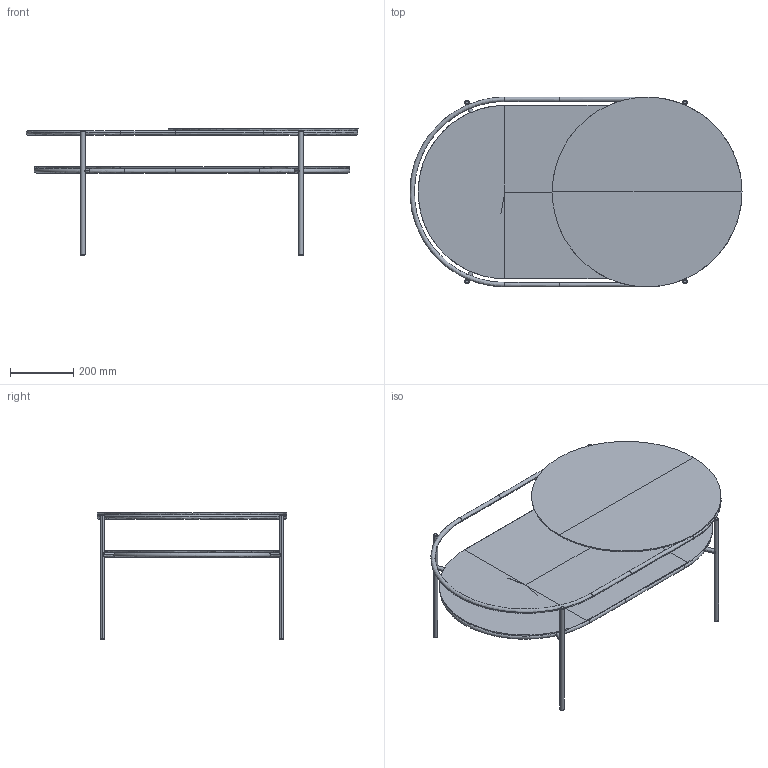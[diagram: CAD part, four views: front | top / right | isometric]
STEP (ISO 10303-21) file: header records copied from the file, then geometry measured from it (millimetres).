
FILE_DESCRIPTION(/* description */ (''),/* implementation_level */ '2;1');
FILE_NAME(/* name */ ' Verde table',/* time_stamp */ '2019-09-26T10:03:32+02:00',/* author */ (''),/* organization */ (''),/* preprocessor_version */ 'ST-DEVELOPER v15',/* originating_system */ '',/* authorisation */ '');
FILE_SCHEMA (('AUTOMOTIVE_DESIGN'));
Length unit declared in the file: millimetre
Products named in the file (1): Document
Bounding box: 1049.84 x 600 x 400.24 mm (x, y, z)
Volume: 12644540.4 mm3; surface area: 1946316.7 mm2
Topology: 21 solids, 21 shells, 207 faces, 439 edges, 264 vertices
Faces by surface type: bspline 119, plane 88
Entity records: 11784 total; most frequent: CARTESIAN_POINT 8890, ORIENTED_EDGE 862, EDGE_CURVE 431, VERTEX_POINT 264, ADVANCED_FACE 207, FACE_OUTER_BOUND 207, EDGE_LOOP 207, B_SPLINE_CURVE_WITH_KNOTS 198
